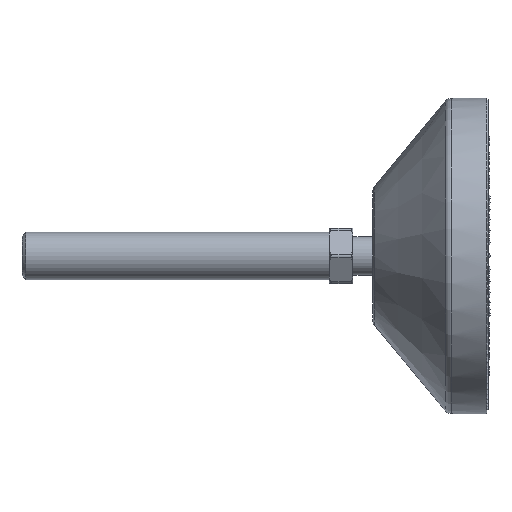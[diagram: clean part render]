
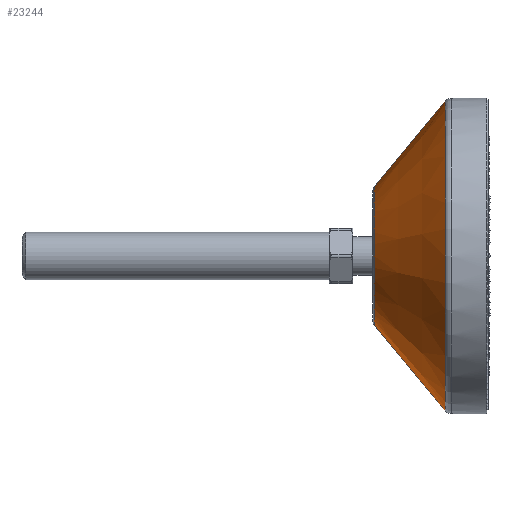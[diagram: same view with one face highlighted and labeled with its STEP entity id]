
A CAD part, left-side view. The second image highlights one B-rep face of the part: STEP entity #23244.
In plain terms, the highlighted conical face has half-angle 50.44 degrees and reference radius 17 mm.
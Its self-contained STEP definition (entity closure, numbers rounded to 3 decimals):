
#1001 = CARTESIAN_POINT ( 'NONE',  ( 0., 10.6, 39.274 ) ) ;
#2886 = DIRECTION ( 'NONE',  ( 0., 0., -1. ) ) ;
#3760 = EDGE_CURVE ( 'NONE', #51505, #40366, #59470, .T. ) ;
#6973 = CARTESIAN_POINT ( 'NONE',  ( 0., 29., 0. ) ) ;
#10090 = CARTESIAN_POINT ( 'NONE',  ( 0., 28.542, 17.555 ) ) ;
#12381 = EDGE_CURVE ( 'NONE', #40366, #59374, #39556, .T. ) ;
#13897 = CONICAL_SURFACE ( 'NONE', #44189, 17., 0.88 ) ;
#14359 = CARTESIAN_POINT ( 'NONE',  ( 0., 29., 17. ) ) ;
#15363 = VECTOR ( 'NONE', #54213, 1000. ) ;
#16658 = DIRECTION ( 'NONE',  ( 0., 0., -1. ) ) ;
#17672 = EDGE_CURVE ( 'NONE', #44401, #51505, #32436, .T. ) ;
#17889 = CARTESIAN_POINT ( 'NONE',  ( 0., 10.6, -39.274 ) ) ;
#18882 = DIRECTION ( 'NONE',  ( 0., -1., 0. ) ) ;
#20370 = AXIS2_PLACEMENT_3D ( 'NONE', #26936, #43421, #16658 ) ;
#23244 = ADVANCED_FACE ( 'NONE', ( #50938 ), #13897, .T. ) ;
#25802 = CARTESIAN_POINT ( 'NONE',  ( 0., 28.542, -17.555 ) ) ;
#26936 = CARTESIAN_POINT ( 'NONE',  ( 0., 10.6, 0. ) ) ;
#30578 = DIRECTION ( 'NONE',  ( 0., -0.637, 0.771 ) ) ;
#31299 = AXIS2_PLACEMENT_3D ( 'NONE', #34167, #61300, #2886 ) ;
#31329 = ORIENTED_EDGE ( 'NONE', *, *, #17672, .T. ) ;
#32436 = CIRCLE ( 'NONE', #31299, 17.555 ) ;
#32722 = CARTESIAN_POINT ( 'NONE',  ( 0., 29., -17. ) ) ;
#34167 = CARTESIAN_POINT ( 'NONE',  ( 0., 28.542, 0. ) ) ;
#37542 = EDGE_LOOP ( 'NONE', ( #60254, #31329, #51923, #49982 ) ) ;
#39556 = CIRCLE ( 'NONE', #20370, 39.274 ) ;
#40366 = VERTEX_POINT ( 'NONE', #17889 ) ;
#43421 = DIRECTION ( 'NONE',  ( 0., 1., 0. ) ) ;
#44189 = AXIS2_PLACEMENT_3D ( 'NONE', #6973, #18882, #56562 ) ;
#44401 = VERTEX_POINT ( 'NONE', #10090 ) ;
#46706 = LINE ( 'NONE', #14359, #48160 ) ;
#48160 = VECTOR ( 'NONE', #30578, 1000. ) ;
#48545 = EDGE_CURVE ( 'NONE', #44401, #59374, #46706, .T. ) ;
#49982 = ORIENTED_EDGE ( 'NONE', *, *, #12381, .T. ) ;
#50938 = FACE_OUTER_BOUND ( 'NONE', #37542, .T. ) ;
#51505 = VERTEX_POINT ( 'NONE', #25802 ) ;
#51923 = ORIENTED_EDGE ( 'NONE', *, *, #3760, .T. ) ;
#54213 = DIRECTION ( 'NONE',  ( 0., -0.637, -0.771 ) ) ;
#56562 = DIRECTION ( 'NONE',  ( 0., 0., -1. ) ) ;
#59374 = VERTEX_POINT ( 'NONE', #1001 ) ;
#59470 = LINE ( 'NONE', #32722, #15363 ) ;
#60254 = ORIENTED_EDGE ( 'NONE', *, *, #48545, .F. ) ;
#61300 = DIRECTION ( 'NONE',  ( 0., -1., 0. ) ) ;
